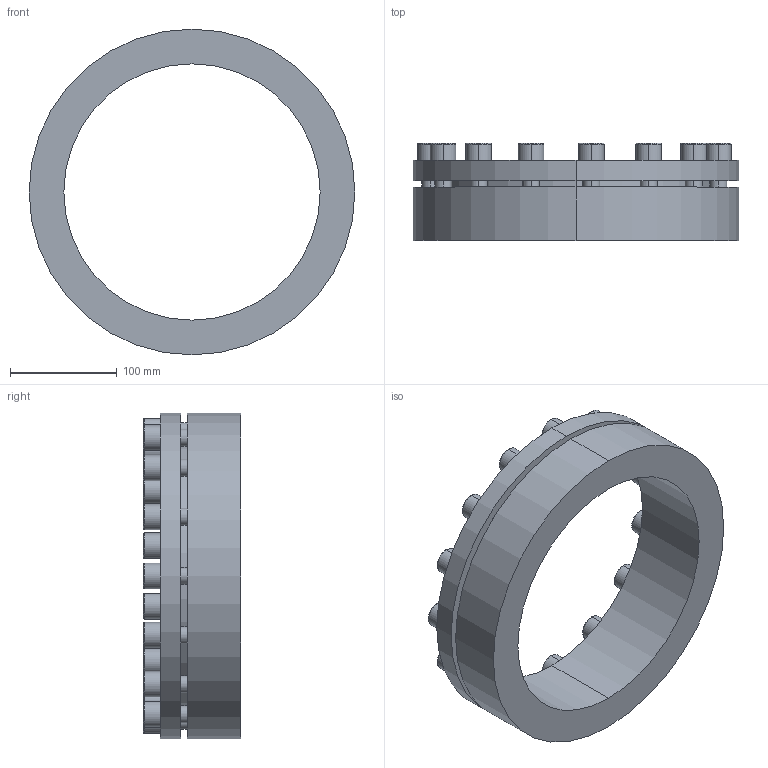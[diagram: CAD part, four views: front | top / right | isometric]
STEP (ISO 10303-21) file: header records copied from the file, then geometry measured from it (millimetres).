
FILE_DESCRIPTION (( 'STEP AP203' ), '1' );
FILE_NAME ('PL-H3 240-305.STEP', '2021-10-23T01:11:56', ( '' ), ( '' ), 'SwSTEP 2.0', 'SolidWorks 2018', '' );
FILE_SCHEMA (( 'CONFIG_CONTROL_DESIGN' ));
Length unit declared in the file: millimetre
Products named in the file (1): PL-H3 240-305
Bounding box: 305 x 91 x 305 mm (x, y, z)
Volume: 2056032 mm3; surface area: 250571.3 mm2
Topology: 1 solids, 1 shells, 222 faces, 534 edges, 346 vertices
Faces by surface type: plane 124, cylinder 68, torus 30
Entity records: 6615 total; most frequent: DIRECTION 1176, CARTESIAN_POINT 1103, ORIENTED_EDGE 1068, EDGE_CURVE 534, AXIS2_PLACEMENT_3D 419, VERTEX_POINT 346, LINE 338, VECTOR 338
